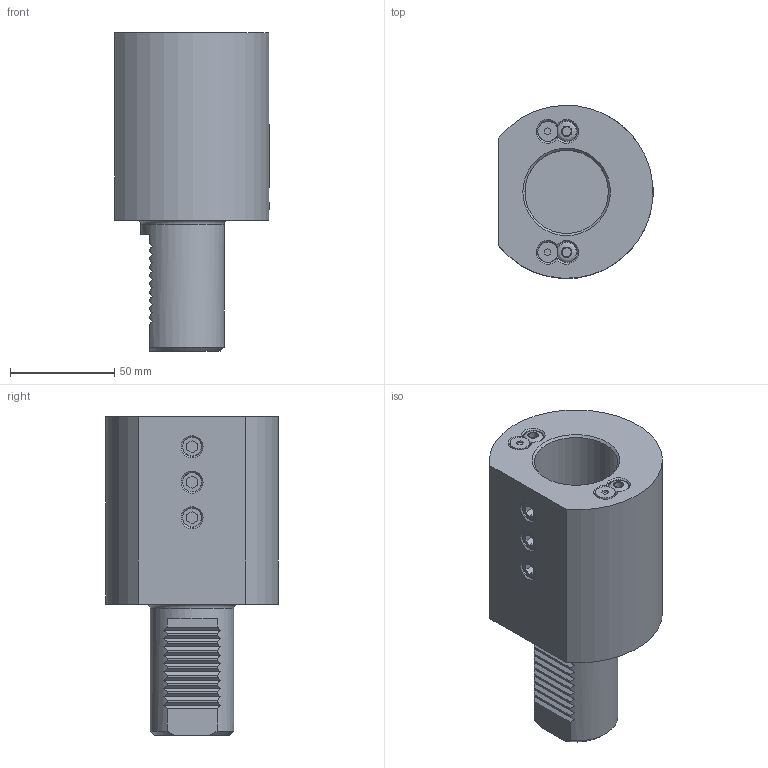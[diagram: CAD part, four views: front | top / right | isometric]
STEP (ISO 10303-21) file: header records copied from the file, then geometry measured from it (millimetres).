
FILE_DESCRIPTION(/* description */ (''),/* implementation_level */ '2;1');
FILE_NAME(/* name */ 'E2-40x40.stp',/* time_stamp */ '2025-08-21T09:40:06+03:00',/* author */ ('User'),/* organization */ (''),/* preprocessor_version */ 'ST-DEVELOPER v19.2',/* originating_system */ 'Autodesk Inventor 2024',/* authorisation */ '');
FILE_SCHEMA (('AUTOMOTIVE_DESIGN { 1 0 10303 214 3 1 1 }'));
Length unit declared in the file: millimetre
Products named in the file (1): E2-40x40
Bounding box: 74 x 82.95 x 153 mm (x, y, z)
Volume: 404840.4 mm3; surface area: 58291.5 mm2
Topology: 4 solids, 4 shells, 153 faces, 368 edges, 245 vertices
Faces by surface type: plane 115, cylinder 23, cone 10, bspline 4, torus 1
Full cylindrical faces by diameter (mm): 4.3 x2, 7 x3, 9 x3, 9.2 x3, 9.5 x2, 14 x1, 23 x1, 40 x2
Entity records: 5041 total; most frequent: CARTESIAN_POINT 1339, DIRECTION 755, ORIENTED_EDGE 736, EDGE_CURVE 368, AXIS2_PLACEMENT_3D 260, VERTEX_POINT 245, LINE 235, VECTOR 235
